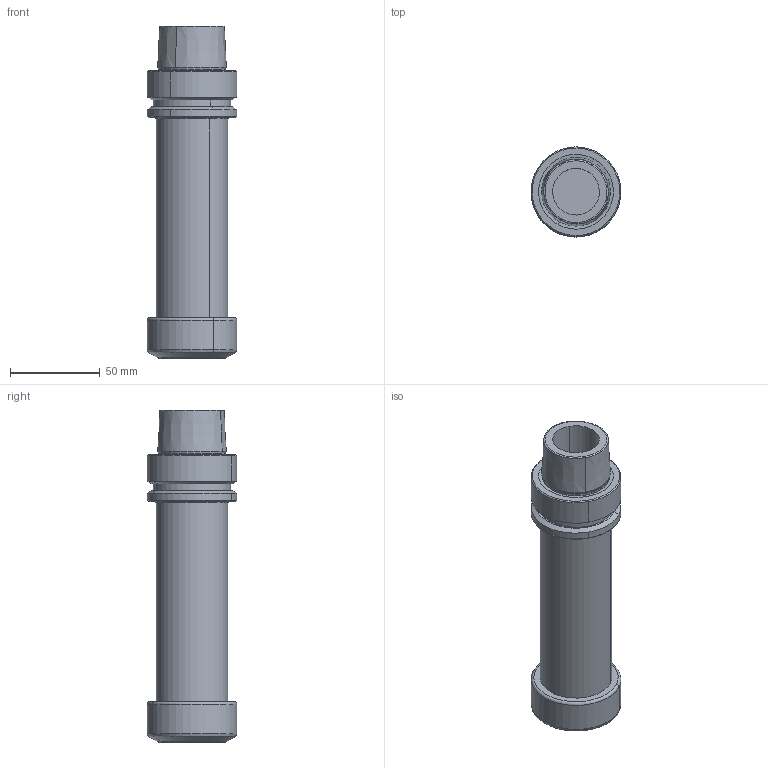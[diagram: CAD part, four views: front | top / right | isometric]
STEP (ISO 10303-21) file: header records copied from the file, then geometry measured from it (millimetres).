
FILE_DESCRIPTION(('CATIA V5 STEP','CAx-IF Rec.Pracs.--- Model Styling and Organization---1.2---2011-12-15'),'2;1');
FILE_NAME('\\nas01\drv1\utils\eitdev\rte\eit\transmagicconvert\db\out\635925863042697471\4505801-L-B.stp','2016-03-03T05:18:39+00:00',('none'),('none'),'CATIA Version 5 Release 21 SP 5 (IN-10)','CATIA V5 STEP AP214','none');
FILE_SCHEMA(('AUTOMOTIVE_DESIGN { 1 0 10303 214 1 1 1 1 }'));
Length unit declared in the file: millimetre
Products named in the file (1): HSK A 50 ER32X160
Bounding box: 49.99 x 50 x 185 mm (x, y, z)
Volume: 208248.5 mm3; surface area: 36830.8 mm2
Topology: 1 solids, 1 shells, 62 faces, 138 edges, 83 vertices
Faces by surface type: cone 22, cylinder 20, torus 12, plane 8
Entity records: 1676 total; most frequent: CARTESIAN_POINT 417, ORIENTED_EDGE 272, DIRECTION 202, EDGE_CURVE 136, AXIS2_PLACEMENT_3D 124, CIRCLE 86, VERTEX_POINT 83, EDGE_LOOP 69
